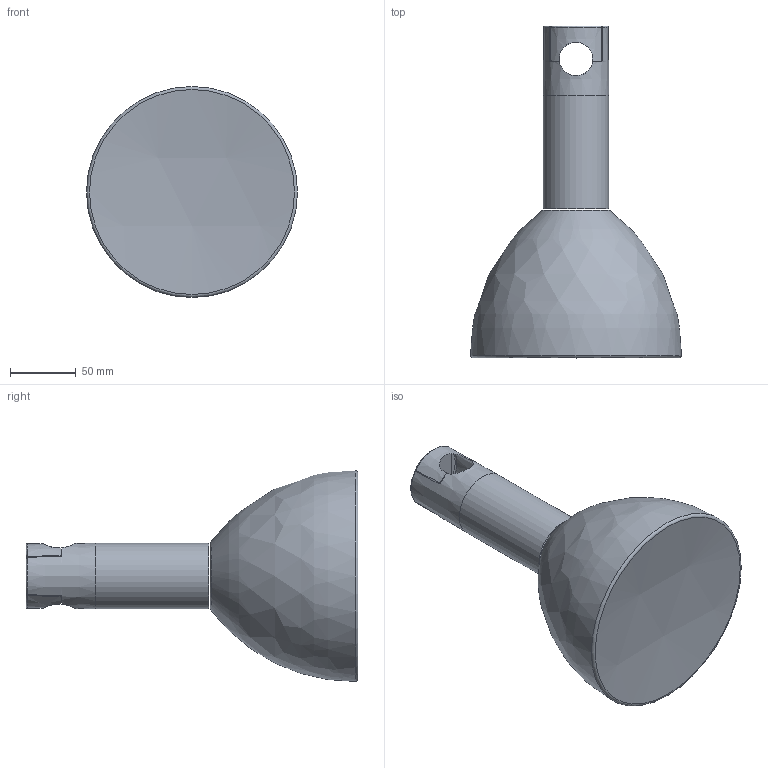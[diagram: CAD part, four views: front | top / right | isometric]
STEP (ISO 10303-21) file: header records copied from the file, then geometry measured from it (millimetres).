
FILE_DESCRIPTION(/* description */ (''),/* implementation_level */ '2;1');
FILE_NAME(/* name */ 'S:\UFFICIO TECNICO 2019\PRODOTTI ROTALIANA\SOUVLAKI\CONFIGURATORE\FILES X CONFIGURATORE\ipt INVENTOR\ASVSV_faretto a binario con diffusore semisferico.stp',/* time_stamp */ '2024-03-13T10:28:57+01:00',/* author */ ('mtesta'),/* organization */ (''),/* preprocessor_version */ 'ST-DEVELOPER v18.1',/* originating_system */ 'Autodesk Inventor 2021',/* authorisation */ '');
FILE_SCHEMA (('AUTOMOTIVE_DESIGN { 1 0 10303 214 3 1 1 }'));
Length unit declared in the file: millimetre
Products named in the file (1): A2645 CONFIGURATORE.iam
Bounding box: 160 x 251.65 x 160 mm (x, y, z)
Surface area: 92395.6 mm2 (no closed solid volume)
Topology: 0 solids, 4 shells, 15 faces, 122 edges, 112 vertices
Faces by surface type: torus 6, plane 3, cone 3, cylinder 1, bspline 1, sphere 1
Full cylindrical faces by diameter (mm): 50 x1
Entity records: 1490 total; most frequent: CARTESIAN_POINT 656, DIRECTION 162, ORIENTED_EDGE 122, EDGE_CURVE 102, VERTEX_POINT 89, AXIS2_PLACEMENT_3D 74, CIRCLE 51, B_SPLINE_CURVE_WITH_KNOTS 39
